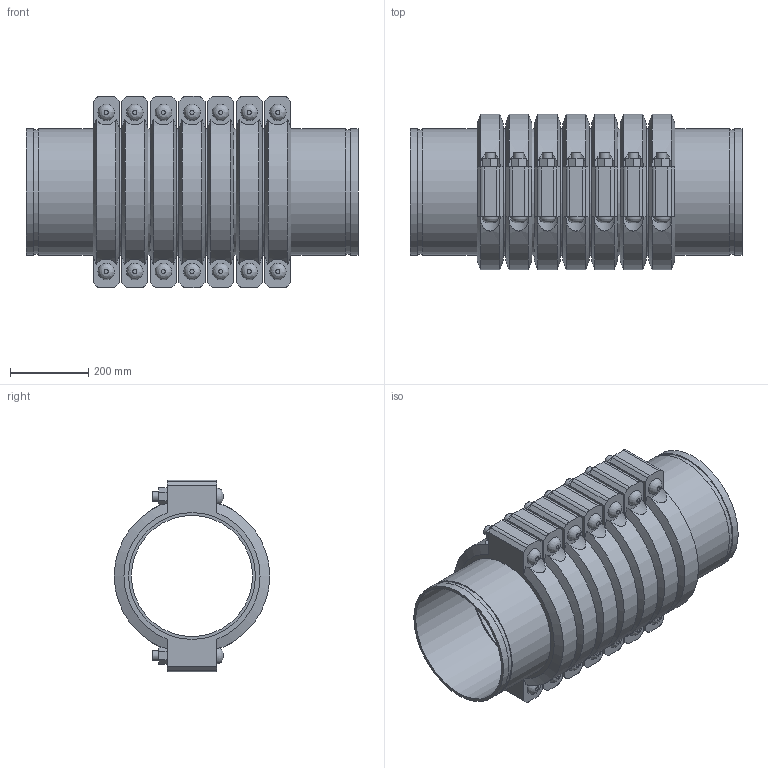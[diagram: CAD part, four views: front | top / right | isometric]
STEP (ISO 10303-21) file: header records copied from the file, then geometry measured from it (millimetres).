
FILE_DESCRIPTION(/* description */ ('VIC SS EXPANSION JOINT 7 COUPLINGS NEUTRAL STYLE 155P (OGS) (POTABLE WATER) ','CAx-IF Rec.Pracs.---Representation and Presentation of Product Manufacturing Information (PMI)---4.0---2014-10-13'),/* implementation_level */ '2;1');
FILE_NAME(/* name */ 'C:\Users\kkamble\AppData\Roaming\Autodesk\ApplicationPlugins\Victaulic.Temp\A807\Victaulic_SS_Expansion Joint_Neutral_7 Couplings_Style 155P (OGS)-Potable Water_7 Coup_Neut_12 (300).stp',/* time_stamp */ '2021-07-16T16:37:43+05:00',/* author */ ('kkamble'),/* organization */ ('Victaulic'),/* preprocessor_version */ 'ST-DEVELOPER v17.2',/* originating_system */ 'Autodesk Inventor 2019',/* authorisation */ '');
FILE_SCHEMA (('AP242_MANAGED_MODEL_BASED_3D_ENGINEERING_MIM_LF { 1 0 10303 442 1 1 4 }'));
Length unit declared in the file: inch
Products named in the file (4): 155P-12.0; Nipple-12.0; Nipple-12.0_1; 077-12.0
Assembly tree (15 placements, depth 2):
  155P-12.0
    Nipple-12.0  x2
    Nipple-12.0_1  x6
    077-12.0  x7
Bounding box: 847.85 x 397 x 488.95 mm (x, y, z)
Volume: 29140812.2 mm3; surface area: 4082271.3 mm2
Topology: 15 solids, 29 shells, 523 faces, 1255 edges, 878 vertices
Faces by surface type: plane 300, cylinder 181, cone 28, bspline 14
Full cylindrical faces by diameter (mm): 25.4 x28, 27.432 x14, 309.677 x8, 314.96 x7, 318.287 x16, 323.85 x38
Entity records: 3089 total; most frequent: CARTESIAN_POINT 663, DIRECTION 485, ORIENTED_EDGE 410, EDGE_CURVE 205, AXIS2_PLACEMENT_3D 198, VERTEX_POINT 146, EDGE_LOOP 111, CIRCLE 96
